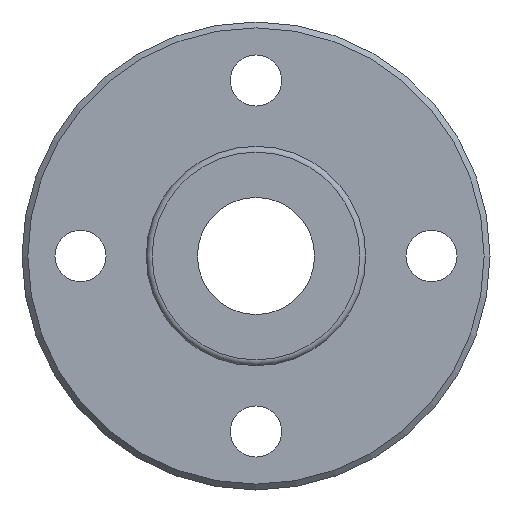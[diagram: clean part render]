
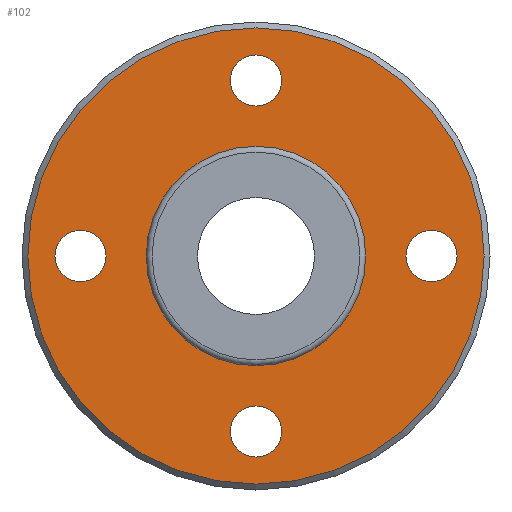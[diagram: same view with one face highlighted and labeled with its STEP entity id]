
A CAD part, left-side view. The second image highlights one B-rep face of the part: STEP entity #102.
In plain terms, the highlighted planar face has unit normal (-1, 0, 0).
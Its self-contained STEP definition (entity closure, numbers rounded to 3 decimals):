
#102=ADVANCED_FACE('',(#189,#190,#191,#192,#193,#194),#195,.T.);
#189=FACE_OUTER_BOUND('',#281,.T.);
#190=FACE_BOUND('',#282,.T.);
#191=FACE_BOUND('',#283,.T.);
#192=FACE_BOUND('',#284,.T.);
#193=FACE_BOUND('',#285,.T.);
#194=FACE_BOUND('',#286,.T.);
#195=PLANE('',#287);
#281=EDGE_LOOP('',(#427));
#282=EDGE_LOOP('',(#428));
#283=EDGE_LOOP('',(#429));
#284=EDGE_LOOP('',(#430));
#285=EDGE_LOOP('',(#431));
#286=EDGE_LOOP('',(#432));
#287=AXIS2_PLACEMENT_3D('',#433,#434,#435);
#427=ORIENTED_EDGE('',*,*,#462,.T.);
#428=ORIENTED_EDGE('',*,*,#437,.F.);
#429=ORIENTED_EDGE('',*,*,#456,.T.);
#430=ORIENTED_EDGE('',*,*,#453,.T.);
#431=ORIENTED_EDGE('',*,*,#451,.T.);
#432=ORIENTED_EDGE('',*,*,#460,.T.);
#433=CARTESIAN_POINT('',(-5.0,0.,11.475));
#434=DIRECTION('',(-1.0,0.,0.));
#435=DIRECTION('',(0.,-1.0,0.));
#437=EDGE_CURVE('',#470,#470,#471,.T.);
#451=EDGE_CURVE('',#498,#498,#499,.T.);
#453=EDGE_CURVE('',#502,#502,#503,.T.);
#456=EDGE_CURVE('',#508,#508,#509,.T.);
#460=EDGE_CURVE('',#516,#516,#517,.T.);
#462=EDGE_CURVE('',#520,#520,#521,.T.);
#470=VERTEX_POINT('',#534);
#471=CIRCLE('',#535,7.35);
#498=VERTEX_POINT('',#562);
#499=CIRCLE('',#563,1.75);
#502=VERTEX_POINT('',#566);
#503=CIRCLE('',#567,1.75);
#508=VERTEX_POINT('',#572);
#509=CIRCLE('',#573,1.75);
#516=VERTEX_POINT('',#580);
#517=CIRCLE('',#581,1.75);
#520=VERTEX_POINT('',#584);
#521=CIRCLE('',#585,15.6);
#534=CARTESIAN_POINT('',(-5.0,0.,7.35));
#535=AXIS2_PLACEMENT_3D('',#599,#600,#601);
#562=CARTESIAN_POINT('',(-5.0,10.25,0.));
#563=AXIS2_PLACEMENT_3D('',#641,#642,#643);
#566=CARTESIAN_POINT('',(-5.0,-1.75,-12.0));
#567=AXIS2_PLACEMENT_3D('',#647,#648,#649);
#572=CARTESIAN_POINT('',(-5.0,-1.75,12.0));
#573=AXIS2_PLACEMENT_3D('',#656,#657,#658);
#580=CARTESIAN_POINT('',(-5.0,-13.75,0.));
#581=AXIS2_PLACEMENT_3D('',#668,#669,#670);
#584=CARTESIAN_POINT('',(-5.,0.,15.6));
#585=AXIS2_PLACEMENT_3D('',#674,#675,#676);
#599=CARTESIAN_POINT('',(-5.0,0.,0.));
#600=DIRECTION('',(-1.0,0.,0.));
#601=DIRECTION('',(0.,0.0,1.0));
#641=CARTESIAN_POINT('',(-5.0,12.0,0.));
#642=DIRECTION('',(1.0,0.,0.));
#643=DIRECTION('',(0.,1.0,0.));
#647=CARTESIAN_POINT('',(-5.0,0.,-12.0));
#648=DIRECTION('',(1.0,0.,0.));
#649=DIRECTION('',(0.,1.0,0.));
#656=CARTESIAN_POINT('',(-5.0,0.,12.0));
#657=DIRECTION('',(1.0,0.,0.));
#658=DIRECTION('',(0.,1.0,0.));
#668=CARTESIAN_POINT('',(-5.0,-12.0,0.));
#669=DIRECTION('',(1.0,0.,0.));
#670=DIRECTION('',(0.,1.0,0.));
#674=CARTESIAN_POINT('',(-5.0,0.,0.));
#675=DIRECTION('',(-1.0,0.,0.));
#676=DIRECTION('',(0.,0.0,1.0));
